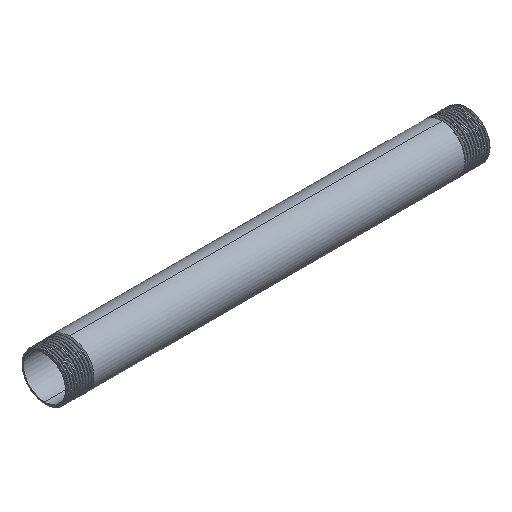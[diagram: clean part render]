
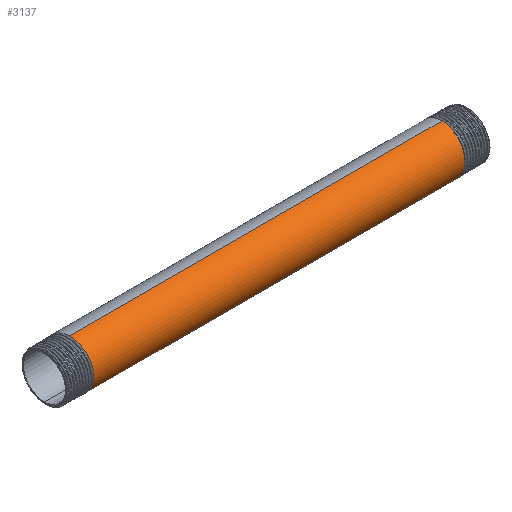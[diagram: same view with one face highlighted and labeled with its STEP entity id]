
A CAD part, isometric view. The second image highlights one B-rep face of the part: STEP entity #3137.
In plain terms, the highlighted cylindrical face has radius 16.85 mm (diameter 33.7 mm), a partial arc.
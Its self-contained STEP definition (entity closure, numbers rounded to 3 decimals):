
#4 = ORIENTED_EDGE ( 'NONE', *, *, #1884, .T. ) ;
#63 = CARTESIAN_POINT ( 'NONE',  ( -131.25, 0., -16.85 ) ) ;
#84 = VERTEX_POINT ( 'NONE', #7929 ) ;
#107 = EDGE_CURVE ( 'NONE', #639, #3166, #1701, .T. ) ;
#230 = CARTESIAN_POINT ( 'NONE',  ( -131.65, -16.025, -5.207 ) ) ;
#596 = CARTESIAN_POINT ( 'NONE',  ( -149.494, 0., 16.85 ) ) ;
#639 = VERTEX_POINT ( 'NONE', #63 ) ;
#872 = VECTOR ( 'NONE', #5000, 1000. ) ;
#1427 = CARTESIAN_POINT ( 'NONE',  ( -132.05, -9.904, 13.632 ) ) ;
#1480 = EDGE_LOOP ( 'NONE', ( #6583, #3455, #4, #4566 ) ) ;
#1512 = CARTESIAN_POINT ( 'NONE',  ( -131.35, -5.475, -16.85 ) ) ;
#1516 = CARTESIAN_POINT ( 'NONE',  ( 132.15, -5.475, 16.85 ) ) ;
#1658 = CYLINDRICAL_SURFACE ( 'NONE', #4121, 16.85 ) ;
#1701 =( BOUNDED_CURVE ( )  B_SPLINE_CURVE ( 2, ( #6680, #1512, #4114, #4032, #230, #4672, #4793, #7292, #1427, #2834, #6638 ),
 .UNSPECIFIED., .F., .F. ) 
 B_SPLINE_CURVE_WITH_KNOTS ( ( 3, 2, 2, 2, 2, 3 ),
 ( 0., 0.009, 0.018, 0.027, 0.036, 0.045 ),
 .UNSPECIFIED. ) 
 CURVE ( )  GEOMETRIC_REPRESENTATION_ITEM ( )  RATIONAL_B_SPLINE_CURVE ( ( 1., 0.951, 1., 0.951, 1., 0.951, 1., 0.951, 1., 0.951, 1. ) ) 
 REPRESENTATION_ITEM ( '' )  );
#1884 = EDGE_CURVE ( 'NONE', #84, #3166, #8431, .T. ) ;
#2197 =( BOUNDED_CURVE ( )  B_SPLINE_CURVE ( 2, ( #2328, #4927, #5438, #7547, #4288, #8062, #3012, #5618, #7381, #1516, #4117 ),
 .UNSPECIFIED., .F., .F. ) 
 B_SPLINE_CURVE_WITH_KNOTS ( ( 3, 2, 2, 2, 2, 3 ),
 ( 0., 0.009, 0.018, 0.027, 0.036, 0.045 ),
 .UNSPECIFIED. ) 
 CURVE ( )  GEOMETRIC_REPRESENTATION_ITEM ( )  RATIONAL_B_SPLINE_CURVE ( ( 1., 0.951, 1., 0.951, 1., 0.951, 1., 0.951, 1., 0.951, 1. ) ) 
 REPRESENTATION_ITEM ( '' )  );
#2257 = FACE_OUTER_BOUND ( 'NONE', #1480, .T. ) ;
#2328 = CARTESIAN_POINT ( 'NONE',  ( 131.25, 0., -16.85 ) ) ;
#2834 = CARTESIAN_POINT ( 'NONE',  ( -132.15, -5.475, 16.85 ) ) ;
#3012 = CARTESIAN_POINT ( 'NONE',  ( 131.85, -16.025, 5.207 ) ) ;
#3137 = ADVANCED_FACE ( 'NONE', ( #2257 ), #1658, .T. ) ;
#3166 = VERTEX_POINT ( 'NONE', #4087 ) ;
#3455 = ORIENTED_EDGE ( 'NONE', *, *, #7570, .T. ) ;
#3495 = CARTESIAN_POINT ( 'NONE',  ( -149.494, 0., 0. ) ) ;
#3541 = VERTEX_POINT ( 'NONE', #3841 ) ;
#3553 = CARTESIAN_POINT ( 'NONE',  ( -149.494, 0., -16.85 ) ) ;
#3841 = CARTESIAN_POINT ( 'NONE',  ( 131.25, 0., -16.85 ) ) ;
#3960 = VECTOR ( 'NONE', #5123, 1000. ) ;
#4032 = CARTESIAN_POINT ( 'NONE',  ( -131.55, -14.333, -10.414 ) ) ;
#4087 = CARTESIAN_POINT ( 'NONE',  ( -132.25, 0., 16.85 ) ) ;
#4114 = CARTESIAN_POINT ( 'NONE',  ( -131.45, -9.904, -13.632 ) ) ;
#4117 = CARTESIAN_POINT ( 'NONE',  ( 132.25, 0., 16.85 ) ) ;
#4121 = AXIS2_PLACEMENT_3D ( 'NONE', #3495, #6786, #6094 ) ;
#4288 = CARTESIAN_POINT ( 'NONE',  ( 131.65, -16.025, -5.207 ) ) ;
#4566 = ORIENTED_EDGE ( 'NONE', *, *, #107, .F. ) ;
#4672 = CARTESIAN_POINT ( 'NONE',  ( -131.75, -17.717, 0. ) ) ;
#4793 = CARTESIAN_POINT ( 'NONE',  ( -131.85, -16.025, 5.207 ) ) ;
#4927 = CARTESIAN_POINT ( 'NONE',  ( 131.35, -5.475, -16.85 ) ) ;
#5000 = DIRECTION ( 'NONE',  ( -1., 0., 0. ) ) ;
#5123 = DIRECTION ( 'NONE',  ( -1., 0., 0. ) ) ;
#5438 = CARTESIAN_POINT ( 'NONE',  ( 131.45, -9.904, -13.632 ) ) ;
#5563 = EDGE_CURVE ( 'NONE', #3541, #639, #8093, .T. ) ;
#5618 = CARTESIAN_POINT ( 'NONE',  ( 131.95, -14.333, 10.414 ) ) ;
#6094 = DIRECTION ( 'NONE',  ( 0., 0., 1. ) ) ;
#6583 = ORIENTED_EDGE ( 'NONE', *, *, #5563, .F. ) ;
#6638 = CARTESIAN_POINT ( 'NONE',  ( -132.25, 0., 16.85 ) ) ;
#6680 = CARTESIAN_POINT ( 'NONE',  ( -131.25, 0., -16.85 ) ) ;
#6786 = DIRECTION ( 'NONE',  ( -1., 0., 0. ) ) ;
#7292 = CARTESIAN_POINT ( 'NONE',  ( -131.95, -14.333, 10.414 ) ) ;
#7381 = CARTESIAN_POINT ( 'NONE',  ( 132.05, -9.904, 13.632 ) ) ;
#7547 = CARTESIAN_POINT ( 'NONE',  ( 131.55, -14.333, -10.414 ) ) ;
#7570 = EDGE_CURVE ( 'NONE', #3541, #84, #2197, .T. ) ;
#7929 = CARTESIAN_POINT ( 'NONE',  ( 132.25, 0., 16.85 ) ) ;
#8062 = CARTESIAN_POINT ( 'NONE',  ( 131.75, -17.717, 0. ) ) ;
#8093 = LINE ( 'NONE', #3553, #872 ) ;
#8431 = LINE ( 'NONE', #596, #3960 ) ;
